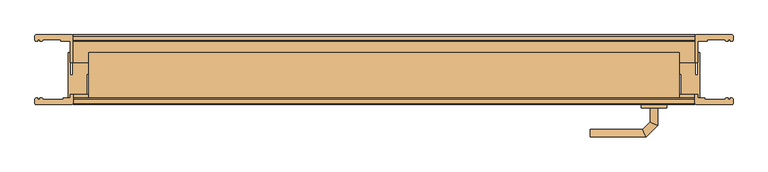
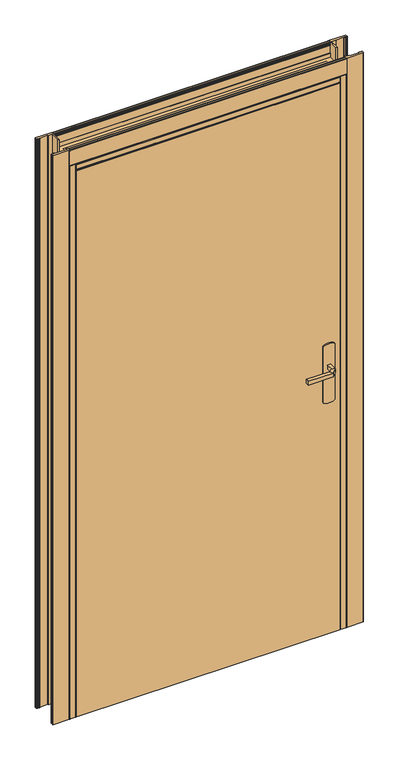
"""IFC4 building model written with IfcOpenShell, lengths in millimetres: door geometry, Doors-Other- SOGAL-SOG040007 : Bloc Porte Standard 930 (Cloison 72-100mm) Chêne Blanc."""

from ifc_helpers import new_model, si_unit, point, frame, frame_2d, origin, origin_with_axes, place, context, project, spatial, polyline, circle_curve, ellipse_curve, trimmed, segment, composite_curve, outline, extrude, source, transform, mapped, element, save
from ifc_brep_helpers import plane_surface, cylinder_surface, advanced_brep


def door_7d5fc318(model_context):
    return source(origin(), model_context, "Body", "SolidModel", [
        extrude(outline(composite_curve([segment(polyline([(-547.7954676, 55.0272352), (-492.070885, 55.0272352)]), True, "CONTINUOUS"), segment(trimmed(circle_curve(frame_2d((-492.070885, 52.8527771)), 2.1744581), [point((-492.070885, 55.0272352))], [point((-489.8964269, 52.8527771))], False, "CARTESIAN"), True, "CONTINUOUS"), segment(polyline([(-489.8964269, 52.8527771), (-489.8964269, 11.0272352), (-493.8765002, 11.0272352), (-493.8765002, 45.0), (-508.967195, 45.0), (-508.967195, 47.0169643), (-537.627571, 47.0169643), (-537.627571, 45.9191686)]), True, "CONTINUOUS"), segment(trimmed(circle_curve(frame_2d((-538.5467397, 45.9191686)), 0.9191686), [point((-537.627571, 45.9191686))], [point((-538.5467397, 45.0))], False, "CARTESIAN"), True, "CONTINUOUS"), segment(polyline([(-538.5467397, 45.0), (-541.8064356, 45.0), (-541.8064356, 47.0169643), (-545.258323, 47.0169643), (-545.258323, 45.0), (-548.1090241, 45.0)]), True, "CONTINUOUS"), segment(trimmed(circle_curve(frame_2d((-548.1090241, 46.5909759)), 1.5909759), [point((-548.1090241, 45.0))], [point((-549.7, 46.5909759))], False, "CARTESIAN"), True, "CONTINUOUS"), segment(polyline([(-549.7, 46.5909759), (-549.7, 53.1227028)]), True, "CONTINUOUS"), segment(trimmed(circle_curve(frame_2d((-547.7954676, 53.1227028)), 1.9045324), [point((-549.7, 53.1227028))], [point((-547.7954676, 55.0272352))], False, "CARTESIAN"), True, "CONTINUOUS")], self_intersect=False)), origin_with_axes(), (0.0, 0.0, 1.0), 2124.7),
        extrude(outline(composite_curve([segment(trimmed(circle_curve(frame_2d((547.7954676, 53.1227028)), 1.9045324), [point((547.7954676, 55.0272352))], [point((549.7, 53.1227028))], False, "CARTESIAN"), True, "CONTINUOUS"), segment(polyline([(549.7, 53.1227028), (549.7, 46.5909759)]), True, "CONTINUOUS"), segment(trimmed(circle_curve(frame_2d((548.1090241, 46.5909759)), 1.5909759), [point((549.7, 46.5909759))], [point((548.1090241, 45.0))], False, "CARTESIAN"), True, "CONTINUOUS"), segment(polyline([(548.1090241, 45.0), (545.258323, 45.0), (545.258323, 47.0169643), (541.8064356, 47.0169643), (541.8064356, 45.0), (538.5467397, 45.0)]), True, "CONTINUOUS"), segment(trimmed(circle_curve(frame_2d((538.5467397, 45.9191686)), 0.9191686), [point((538.5467397, 45.0))], [point((537.627571, 45.9191686))], False, "CARTESIAN"), True, "CONTINUOUS"), segment(polyline([(537.627571, 45.9191686), (537.627571, 47.0169643), (508.967195, 47.0169643), (508.967195, 45.0), (493.8765002, 45.0), (493.8765002, 11.0272352), (489.8964269, 11.0272352), (489.8964269, 52.8527771)]), True, "CONTINUOUS"), segment(trimmed(circle_curve(frame_2d((492.070885, 52.8527771)), 2.1744581), [point((489.8964269, 52.8527771))], [point((492.070885, 55.0272352))], False, "CARTESIAN"), True, "CONTINUOUS"), segment(polyline([(492.070885, 55.0272352), (547.7954676, 55.0272352)]), True, "CONTINUOUS")], self_intersect=False)), origin_with_axes(), (0.0, 0.0, 1.0), 2124.7),
        extrude(outline(composite_curve([segment(trimmed(circle_curve(frame_2d((52.8527771, 2067.070885)), 2.1744581), [point((55.0272352, 2067.070885))], [point((52.8527771, 2064.8964269))], False, "CARTESIAN"), True, "CONTINUOUS"), segment(polyline([(52.8527771, 2064.8964269), (11.0272352, 2064.8964269), (11.0272352, 2068.8765002), (45.0, 2068.8765002), (45.0, 2083.967195), (47.0169643, 2083.967195), (47.0169643, 2112.627571), (45.9191686, 2112.627571)]), True, "CONTINUOUS"), segment(trimmed(circle_curve(frame_2d((45.9191686, 2113.5467397)), 0.9191686), [point((45.9191686, 2112.627571))], [point((45.0, 2113.5467397))], False, "CARTESIAN"), True, "CONTINUOUS"), segment(polyline([(45.0, 2113.5467397), (45.0, 2116.8064356), (47.0169643, 2116.8064356), (47.0169643, 2120.258323), (45.0, 2120.258323), (45.0, 2123.1090241)]), True, "CONTINUOUS"), segment(trimmed(circle_curve(frame_2d((46.5909759, 2123.1090241)), 1.5909759), [point((45.0, 2123.1090241))], [point((46.5909759, 2124.7))], False, "CARTESIAN"), True, "CONTINUOUS"), segment(polyline([(46.5909759, 2124.7), (53.1227028, 2124.7)]), True, "CONTINUOUS"), segment(trimmed(circle_curve(frame_2d((53.1227028, 2122.7954676)), 1.9045324), [point((53.1227028, 2124.7))], [point((55.0272352, 2122.7954676))], False, "CARTESIAN"), True, "CONTINUOUS"), segment(polyline([(55.0272352, 2122.7954676), (55.0272352, 2067.070885)]), True, "CONTINUOUS")], self_intersect=False)), frame((-489.8964269, 0.0, 0.0), z_axis=(1.0, 0.0, 0.0), x_axis=(0.0, 1.0, 0.0)), (0.0, 0.0, 1.0), 979.7928537),
        advanced_brep(
        [(419.0, -6.0272352, 993.0), (431.0, -6.0272352, 993.0), (431.0, -6.0272352, 1007.0), (419.0, -6.0272352, 1007.0), (419.0, 16.4579693, 1007.0), (419.0, 16.4579693, 993.0), (431.0, 21.428532, 1007.0), (431.0, 21.428532, 993.0), (407.5147186, 27.9432506, 1007.0), (407.5147186, 27.9432506, 993.0), (412.4852814, 39.9432506, 1007.0), (412.4852814, 39.9432506, 993.0), (324.9542163, 27.9432506, 993.0), (324.9542163, 27.9432506, 1007.0), (324.9542163, 39.9432506, 1007.0), (324.9542163, 39.9432506, 993.0)],
        [
            (0, 1, circle_curve(frame((425.0, -6.0272352, 1013.0457722), z_axis=(0.0, -1.0, 0.0), x_axis=(1.0, 0.0, 0.0)), 20.9244589)),
            (1, 2),
            (2, 3, circle_curve(frame((425.0, -6.0272352, 986.9542278), z_axis=(0.0, -1.0, 0.0), x_axis=(1.0, 0.0, 0.0)), 20.9244589)),
            (3, 0),
            (3, 4),
            (4, 5),
            (5, 0),
            (2, 6),
            (6, 4, ellipse_curve(frame((425.0, 18.9432506, 986.9542278), z_axis=(0.38268343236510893, -0.9238795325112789, 0.0), x_axis=(-0.9238795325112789, -0.3826834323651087, 0.0)), 22.6484711, 20.9244589)),
            (1, 7),
            (7, 6),
            (5, 7, ellipse_curve(frame((425.0, 18.9432506, 1013.0457722), z_axis=(0.38268343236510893, -0.9238795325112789, 0.0), x_axis=(-0.9238795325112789, -0.3826834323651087, 0.0)), 22.6484711, 20.9244589)),
            (4, 8),
            (8, 9),
            (9, 5),
            (6, 10),
            (10, 8, ellipse_curve(frame((410.0, 33.9432506, 986.9542278), z_axis=(0.9238795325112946, -0.38268343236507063, 0.0), x_axis=(-0.3826834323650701, -0.9238795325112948, 0.0)), 22.6484711, 20.9244589)),
            (7, 11),
            (11, 10),
            (9, 11, ellipse_curve(frame((410.0, 33.9432506, 1013.0457722), z_axis=(0.9238795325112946, -0.38268343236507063, 0.0), x_axis=(-0.3826834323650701, -0.9238795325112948, 0.0)), 22.6484711, 20.9244589)),
            (12, 13),
            (13, 14, circle_curve(frame((324.9542163, 33.9432506, 986.9542278), z_axis=(-1.0, 0.0, 0.0), x_axis=(0.0, 1.0, 0.0)), 20.9244589)),
            (14, 15),
            (15, 12, circle_curve(frame((324.9542163, 33.9432506, 1013.0457722), z_axis=(-1.0, 0.0, 0.0), x_axis=(0.0, 1.0, 0.0)), 20.9244589)),
            (8, 13),
            (12, 9),
            (10, 14),
            (11, 15),
        ],
        [
            plane_surface(frame((434.2195445, -6.0272352, 1000.0), z_axis=(0.0, -1.0, 0.0), x_axis=(0.0, 0.0, 1.0))),
            plane_surface(frame((419.0, -6.0272352, 993.0), z_axis=(-1.0, 0.0, 0.0), x_axis=(0.0, 1.0, 0.0))),
            cylinder_surface(frame((425.0, -6.0272352, 986.9542278), z_axis=(0.0, -1.0, 0.0), x_axis=(1.0, 0.0, 0.0)), 20.9244589),
            plane_surface(frame((431.0, -6.0272352, 1007.0), z_axis=(1.0, 0.0, 0.0), x_axis=(0.0, 1.0, 0.0))),
            cylinder_surface(frame((425.0, -6.0272352, 1013.0457722), z_axis=(0.0, -1.0, 0.0), x_axis=(1.0, 0.0, 0.0)), 20.9244589),
            plane_surface(frame((419.0, 16.4579693, 993.0), z_axis=(-0.7071067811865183, -0.7071067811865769, 0.0), x_axis=(-0.7071067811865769, 0.7071067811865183, 0.0))),
            cylinder_surface(frame((425.0, 18.9432506, 986.9542278), z_axis=(0.7071067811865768, -0.7071067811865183, 0.0), x_axis=(0.7071067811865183, 0.7071067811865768, 0.0)), 20.9244589),
            plane_surface(frame((431.0, 21.428532, 1007.0), z_axis=(0.7071067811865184, 0.7071067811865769, 0.0), x_axis=(-0.7071067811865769, 0.7071067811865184, 0.0))),
            cylinder_surface(frame((425.0, 18.9432506, 1013.0457722), z_axis=(0.7071067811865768, -0.7071067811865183, 0.0), x_axis=(0.7071067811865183, 0.7071067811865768, 0.0)), 20.9244589),
            plane_surface(frame((324.9542163, 33.9432506, 990.7804555), z_axis=(-1.0, 0.0, 0.0), x_axis=(0.0, 1.0, 0.0))),
            plane_surface(frame((407.5147186, 27.9432506, 993.0), z_axis=(0.0, -1.0, 0.0), x_axis=(-1.0, 0.0, 0.0))),
            cylinder_surface(frame((410.0, 33.9432506, 986.9542278), z_axis=(1.0, 0.0, 0.0), x_axis=(0.0, 1.0, 0.0)), 20.9244589),
            plane_surface(frame((412.4852814, 39.9432506, 1007.0), z_axis=(0.0, 1.0, 0.0), x_axis=(-1.0, 0.0, 0.0))),
            cylinder_surface(frame((410.0, 33.9432506, 1013.0457722), z_axis=(1.0, 0.0, 0.0), x_axis=(0.0, 1.0, 0.0)), 20.9244589),
        ],
        [
            (0, [[1, 2, 3, 4]]),
            (1, [[5, 6, 7, -4]]),
            (2, [[8, 9, -5, -3]]),
            (3, [[10, 11, -8, -2]]),
            (4, [[-7, 12, -10, -1]]),
            (5, [[13, 14, 15, -6]]),
            (6, [[16, 17, -13, -9]]),
            (7, [[18, 19, -16, -11]]),
            (8, [[-15, 20, -18, -12]]),
            (9, [[21, 22, 23, 24]]),
            (10, [[25, -21, 26, -14]]),
            (11, [[27, -22, -25, -17]]),
            (12, [[28, -23, -27, -19]]),
            (13, [[-26, -24, -28, -20]]),
        ],
    ),
        advanced_brep(
        [(431.0, -60.0272352, 1007.0), (431.0, -60.0272352, 993.0), (419.0, -60.0272352, 993.0), (419.0, -60.0272352, 1007.0), (419.0, -82.7076232, 1007.0), (431.0, -87.6781859, 1007.0), (419.0, -82.7076232, 993.0), (431.0, -87.6781859, 993.0), (407.6522273, -94.0553959, 1007.0), (412.62279, -106.0553959, 1007.0), (407.6522273, -94.0553959, 993.0), (412.62279, -106.0553959, 993.0), (324.9813594, -106.0553959, 1007.0), (324.9813594, -94.0553959, 1007.0), (324.9813594, -94.0553959, 993.0), (324.9813594, -106.0553959, 993.0)],
        [
            (0, 1),
            (1, 2, circle_curve(frame((425.0, -60.0272352, 1013.0457722), z_axis=(0.0, 1.0, 0.0), x_axis=(-1.0, 0.0, 0.0)), 20.9244589)),
            (2, 3),
            (3, 0, circle_curve(frame((425.0, -60.0272352, 986.9542278), z_axis=(0.0, 1.0, 0.0), x_axis=(-1.0, 0.0, 0.0)), 20.9244589)),
            (3, 4),
            (4, 5, ellipse_curve(frame((425.0, -85.1929046, 986.9542278), z_axis=(0.3826834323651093, 0.9238795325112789, 0.0), x_axis=(-0.9238795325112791, 0.38268343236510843, 0.0)), 22.6484711, 20.9244589)),
            (5, 0),
            (2, 6),
            (6, 4),
            (1, 7),
            (7, 6, ellipse_curve(frame((425.0, -85.1929046, 1013.0457722), z_axis=(0.3826834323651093, 0.9238795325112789, 0.0), x_axis=(-0.9238795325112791, 0.38268343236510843, 0.0)), 22.6484711, 20.9244589)),
            (5, 7),
            (4, 8),
            (8, 9, ellipse_curve(frame((410.1375086, -100.0553959, 986.9542278), z_axis=(0.9238795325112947, 0.38268343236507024, 0.0), x_axis=(-0.3826834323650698, 0.9238795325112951, 0.0)), 22.6484711, 20.9244589)),
            (9, 5),
            (6, 10),
            (10, 8),
            (7, 11),
            (11, 10, ellipse_curve(frame((410.1375086, -100.0553959, 1013.0457722), z_axis=(0.9238795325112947, 0.38268343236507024, 0.0), x_axis=(-0.3826834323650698, 0.9238795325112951, 0.0)), 22.6484711, 20.9244589)),
            (9, 11),
            (12, 13, circle_curve(frame((324.9813594, -100.0553959, 986.9542278), z_axis=(-1.0, 0.0, 0.0), x_axis=(0.0, 1.0, 0.0)), 20.9244589)),
            (13, 14),
            (14, 15, circle_curve(frame((324.9813594, -100.0553959, 1013.0457722), z_axis=(-1.0, 0.0, 0.0), x_axis=(0.0, 1.0, 0.0)), 20.9244589)),
            (15, 12),
            (8, 13),
            (12, 9),
            (10, 14),
            (11, 15),
        ],
        [
            plane_surface(frame((434.2195445, -60.0272352, 1000.0), z_axis=(0.0, 1.0, 0.0), x_axis=(0.0, 0.0, -1.0))),
            cylinder_surface(frame((425.0, -60.0272352, 986.9542278), z_axis=(0.0, 1.0, 0.0), x_axis=(-1.0, 0.0, 0.0)), 20.9244589),
            plane_surface(frame((419.0, -60.0272352, 1007.0), z_axis=(-1.0, 0.0, 0.0), x_axis=(0.0, -1.0, 0.0))),
            cylinder_surface(frame((425.0, -60.0272352, 1013.0457722), z_axis=(0.0, 1.0, 0.0), x_axis=(-1.0, 0.0, 0.0)), 20.9244589),
            plane_surface(frame((431.0, -60.0272352, 993.0), z_axis=(1.0, 0.0, 0.0), x_axis=(0.0, -1.0, 0.0))),
            cylinder_surface(frame((425.0, -85.1929046, 986.9542278), z_axis=(0.7071067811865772, 0.7071067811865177, 0.0), x_axis=(-0.7071067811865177, 0.7071067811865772, 0.0)), 20.9244589),
            plane_surface(frame((419.0, -82.7076232, 1007.0), z_axis=(-0.7071067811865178, 0.7071067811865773, 0.0), x_axis=(-0.7071067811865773, -0.7071067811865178, 0.0))),
            cylinder_surface(frame((425.0, -85.1929046, 1013.0457722), z_axis=(0.7071067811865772, 0.7071067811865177, 0.0), x_axis=(-0.7071067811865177, 0.7071067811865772, 0.0)), 20.9244589),
            plane_surface(frame((431.0, -87.6781859, 993.0), z_axis=(0.7071067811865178, -0.7071067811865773, 0.0), x_axis=(-0.7071067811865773, -0.7071067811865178, 0.0))),
            plane_surface(frame((324.9813594, -100.0553959, 990.7804555), z_axis=(-1.0, 0.0, 0.0), x_axis=(0.0, 1.0, 0.0))),
            cylinder_surface(frame((410.1375086, -100.0553959, 986.9542278), z_axis=(1.0, 0.0, 0.0), x_axis=(0.0, 1.0, 0.0)), 20.9244589),
            plane_surface(frame((407.6522273, -94.0553959, 1007.0), z_axis=(0.0, 1.0, 0.0), x_axis=(-1.0, 0.0, 0.0))),
            cylinder_surface(frame((410.1375086, -100.0553959, 1013.0457722), z_axis=(1.0, 0.0, 0.0), x_axis=(0.0, 1.0, 0.0)), 20.9244589),
            plane_surface(frame((412.62279, -106.0553959, 993.0), z_axis=(0.0, -1.0, 0.0), x_axis=(-1.0, 0.0, 0.0))),
        ],
        [
            (0, [[1, 2, 3, 4]]),
            (1, [[5, 6, 7, -4]]),
            (2, [[8, 9, -5, -3]]),
            (3, [[10, 11, -8, -2]]),
            (4, [[-7, 12, -10, -1]]),
            (5, [[13, 14, 15, -6]]),
            (6, [[16, 17, -13, -9]]),
            (7, [[18, 19, -16, -11]]),
            (8, [[-15, 20, -18, -12]]),
            (9, [[21, 22, 23, 24]]),
            (10, [[25, -21, 26, -14]]),
            (11, [[27, -22, -25, -17]]),
            (12, [[28, -23, -27, -19]]),
            (13, [[-26, -24, -28, -20]]),
        ],
    ),
        extrude(outline(composite_curve([segment(polyline([(1080.0, 405.0), (870.0, 405.0)]), True, "CONTINUOUS"), segment(trimmed(circle_curve(frame_2d((904.6410162, 425.0)), 40.0), [point((870.0, 405.0))], [point((870.0, 445.0))], False, "CARTESIAN"), True, "CONTINUOUS"), segment(polyline([(870.0, 445.0), (1080.0, 445.0)]), True, "CONTINUOUS"), segment(trimmed(circle_curve(frame_2d((1045.3589838, 425.0)), 40.0), [point((1080.0, 445.0))], [point((1080.0, 405.0))], False, "CARTESIAN"), True, "CONTINUOUS")], self_intersect=False)), frame((0.0, -11.0272352, 0.0), z_axis=(0.0, 1.0, 0.0), x_axis=(0.0, 0.0, 1.0)), (0.0, 0.0, 1.0), 5.0),
        extrude(outline(composite_curve([segment(polyline([(870.0, 445.0), (1080.0, 445.0)]), True, "CONTINUOUS"), segment(trimmed(circle_curve(frame_2d((1045.3589838, 425.0)), 40.0), [point((1080.0, 445.0))], [point((1080.0, 405.0))], False, "CARTESIAN"), True, "CONTINUOUS"), segment(polyline([(1080.0, 405.0), (870.0, 405.0)]), True, "CONTINUOUS"), segment(trimmed(circle_curve(frame_2d((904.6410162, 425.0)), 40.0), [point((870.0, 405.0))], [point((870.0, 445.0))], False, "CARTESIAN"), True, "CONTINUOUS")], self_intersect=False)), frame((0.0, -60.0272352, 0.0), z_axis=(0.0, 1.0, 0.0), x_axis=(0.0, 0.0, 1.0)), (0.0, 0.0, 1.0), 5.0),
        extrude(outline(polyline([(465.0, -11.0272352), (465.0, -55.0272352), (-465.0, -55.0272352), (-465.0, -11.0272352), (465.0, -11.0272352)])), origin_with_axes(), (0.0, 0.0, 1.0), 2040.0),
        extrude(outline(composite_curve([segment(polyline([(-497.2920209, -45.0), (-497.2920209, 27.0), (-493.9292318, 27.0), (-493.9292318, -8.7316076), (-489.9292318, -8.7316076), (-489.9292318, 23.8537477)]), True, "CONTINUOUS"), segment(trimmed(circle_curve(frame_2d((-486.7829795, 23.8537477)), 3.1462523), [point((-489.9292318, 23.8537477))], [point((-486.7829795, 27.0))], False, "CARTESIAN"), True, "CONTINUOUS"), segment(polyline([(-486.7829795, 27.0), (-459.803951, 27.0)]), True, "CONTINUOUS"), segment(trimmed(circle_curve(frame_2d((-459.803951, 24.3268599)), 2.6731401), [point((-459.803951, 27.0))], [point((-457.2920209, 25.2411276))], False, "CARTESIAN"), True, "CONTINUOUS"), segment(polyline([(-457.2920209, 25.2411276), (-457.2920209, -5.4097868)]), True, "CONTINUOUS"), segment(trimmed(circle_curve(frame_2d((-459.6600382, -3.3559258)), 3.1346213), [point((-457.2920209, -5.4097868))], [point((-459.065351, -6.4336194))], False, "CARTESIAN"), True, "CONTINUOUS"), segment(polyline([(-459.065351, -6.4336194), (-461.4338818, -6.4336194), (-461.4338818, -0.3022774), (-464.3775983, -0.3022774), (-464.3775983, -6.5953908), (-467.7147916, -6.5953908), (-467.7147916, -53.1705744)]), True, "CONTINUOUS"), segment(trimmed(circle_curve(frame_2d((-469.5714525, -53.1705744)), 1.8566608), [point((-467.7147916, -53.1705744))], [point((-469.5714525, -55.0272352))], False, "CARTESIAN"), True, "CONTINUOUS"), segment(polyline([(-469.5714525, -55.0272352), (-487.6060989, -55.0272352)]), True, "CONTINUOUS"), segment(trimmed(circle_curve(frame_2d((-487.6060989, -52.9005292)), 2.126706), [point((-487.6060989, -55.0272352))], [point((-489.732805, -52.9005292))], False, "CARTESIAN"), True, "CONTINUOUS"), segment(polyline([(-489.732805, -52.9005292), (-489.732805, -38.3193447), (-494.0032268, -38.3193447), (-494.0032268, -45.0), (-497.2920209, -45.0)]), True, "CONTINUOUS")], self_intersect=False)), origin_with_axes(), (0.0, 0.0, 1.0), 2064.732805),
        extrude(outline(composite_curve([segment(polyline([(497.2920209, -45.0), (494.0032268, -45.0), (494.0032268, -38.3193447), (489.732805, -38.3193447), (489.732805, -52.9005292)]), True, "CONTINUOUS"), segment(trimmed(circle_curve(frame_2d((487.6060989, -52.9005292)), 2.126706), [point((489.732805, -52.9005292))], [point((487.6060989, -55.0272352))], False, "CARTESIAN"), True, "CONTINUOUS"), segment(polyline([(487.6060989, -55.0272352), (469.5714525, -55.0272352)]), True, "CONTINUOUS"), segment(trimmed(circle_curve(frame_2d((469.5714525, -53.1705744)), 1.8566608), [point((469.5714525, -55.0272352))], [point((467.7147916, -53.1705744))], False, "CARTESIAN"), True, "CONTINUOUS"), segment(polyline([(467.7147916, -53.1705744), (467.7147916, -6.5953908), (464.3775983, -6.5953908), (464.3775983, -0.3022774), (461.4338818, -0.3022774), (461.4338818, -6.4336194), (459.065351, -6.4336194)]), True, "CONTINUOUS"), segment(trimmed(circle_curve(frame_2d((459.6600382, -3.3559258)), 3.1346213), [point((459.065351, -6.4336194))], [point((457.2920209, -5.4097868))], False, "CARTESIAN"), True, "CONTINUOUS"), segment(polyline([(457.2920209, -5.4097868), (457.2920209, 25.2411276)]), True, "CONTINUOUS"), segment(trimmed(circle_curve(frame_2d((459.803951, 24.3268599)), 2.6731401), [point((457.2920209, 25.2411276))], [point((459.803951, 27.0))], False, "CARTESIAN"), True, "CONTINUOUS"), segment(polyline([(459.803951, 27.0), (486.7829795, 27.0)]), True, "CONTINUOUS"), segment(trimmed(circle_curve(frame_2d((486.7829795, 23.8537477)), 3.1462523), [point((486.7829795, 27.0))], [point((489.9292318, 23.8537477))], False, "CARTESIAN"), True, "CONTINUOUS"), segment(polyline([(489.9292318, 23.8537477), (489.9292318, -8.7316076), (493.9292318, -8.7316076), (493.9292318, 27.0), (497.2920209, 27.0), (497.2920209, -45.0)]), True, "CONTINUOUS")], self_intersect=False)), origin_with_axes(), (0.0, 0.0, 1.0), 2064.732805),
        extrude(outline(composite_curve([segment(polyline([(-489.732805, -39.0272352), (-489.732805, -52.8527771)]), True, "CONTINUOUS"), segment(trimmed(circle_curve(frame_2d((-491.9072631, -52.8527771)), 2.1744581), [point((-489.732805, -52.8527771))], [point((-491.9072631, -55.0272352))], False, "CARTESIAN"), True, "CONTINUOUS"), segment(polyline([(-491.9072631, -55.0272352), (-547.8282725, -55.0272352)]), True, "CONTINUOUS"), segment(trimmed(circle_curve(frame_2d((-547.8282725, -53.1227028)), 1.9045324), [point((-547.8282725, -55.0272352))], [point((-549.732805, -53.1227028))], False, "CARTESIAN"), True, "CONTINUOUS"), segment(polyline([(-549.732805, -53.1227028), (-549.732805, -46.5909759)]), True, "CONTINUOUS"), segment(trimmed(circle_curve(frame_2d((-548.1418291, -46.5909759)), 1.5909759), [point((-549.732805, -46.5909759))], [point((-548.1418291, -45.0))], False, "CARTESIAN"), True, "CONTINUOUS"), segment(polyline([(-548.1418291, -45.0), (-545.2911279, -45.0), (-545.2911279, -47.0169643), (-541.8392405, -47.0169643), (-541.8392405, -45.0), (-538.5795446, -45.0)]), True, "CONTINUOUS"), segment(trimmed(circle_curve(frame_2d((-538.5795446, -45.9191686)), 0.9191686), [point((-538.5795446, -45.0))], [point((-537.660376, -45.9191686))], False, "CARTESIAN"), True, "CONTINUOUS"), segment(polyline([(-537.660376, -45.9191686), (-537.660376, -47.0169643), (-505.0, -47.0169643), (-505.0, -45.0), (-494.0032268, -45.0), (-494.0032268, -39.0272352), (-489.732805, -39.0272352)]), True, "CONTINUOUS")], self_intersect=False)), origin_with_axes(), (0.0, 0.0, 1.0), 2124.732805),
        extrude(outline(composite_curve([segment(polyline([(489.732805, -39.0272352), (494.0032268, -39.0272352), (494.0032268, -45.0), (505.0, -45.0), (505.0, -47.0169643), (537.660376, -47.0169643), (537.660376, -45.9191686)]), True, "CONTINUOUS"), segment(trimmed(circle_curve(frame_2d((538.5795446, -45.9191686)), 0.9191686), [point((537.660376, -45.9191686))], [point((538.5795446, -45.0))], False, "CARTESIAN"), True, "CONTINUOUS"), segment(polyline([(538.5795446, -45.0), (541.8392405, -45.0), (541.8392405, -47.0169643), (545.2911279, -47.0169643), (545.2911279, -45.0), (548.1418291, -45.0)]), True, "CONTINUOUS"), segment(trimmed(circle_curve(frame_2d((548.1418291, -46.5909759)), 1.5909759), [point((548.1418291, -45.0))], [point((549.732805, -46.5909759))], False, "CARTESIAN"), True, "CONTINUOUS"), segment(polyline([(549.732805, -46.5909759), (549.732805, -53.1227028)]), True, "CONTINUOUS"), segment(trimmed(circle_curve(frame_2d((547.8282725, -53.1227028)), 1.9045324), [point((549.732805, -53.1227028))], [point((547.8282725, -55.0272352))], False, "CARTESIAN"), True, "CONTINUOUS"), segment(polyline([(547.8282725, -55.0272352), (491.9072631, -55.0272352)]), True, "CONTINUOUS"), segment(trimmed(circle_curve(frame_2d((491.9072631, -52.8527771)), 2.1744581), [point((491.9072631, -55.0272352))], [point((489.732805, -52.8527771))], False, "CARTESIAN"), True, "CONTINUOUS"), segment(polyline([(489.732805, -52.8527771), (489.732805, -39.0272352)]), True, "CONTINUOUS")], self_intersect=False)), origin_with_axes(), (0.0, 0.0, 1.0), 2124.732805),
        extrude(outline(composite_curve([segment(polyline([(-45.0, 2072.2920209), (27.0, 2072.2920209), (27.0, 2068.9292318), (-8.7316076, 2068.9292318), (-8.7316076, 2064.9292318), (23.8537477, 2064.9292318)]), True, "CONTINUOUS"), segment(trimmed(circle_curve(frame_2d((23.8537477, 2061.7829795)), 3.1462523), [point((23.8537477, 2064.9292318))], [point((27.0, 2061.7829795))], False, "CARTESIAN"), True, "CONTINUOUS"), segment(polyline([(27.0, 2061.7829795), (27.0, 2034.803951)]), True, "CONTINUOUS"), segment(trimmed(circle_curve(frame_2d((24.3268599, 2034.803951)), 2.6731401), [point((27.0, 2034.803951))], [point((25.2411276, 2032.2920209))], False, "CARTESIAN"), True, "CONTINUOUS"), segment(polyline([(25.2411276, 2032.2920209), (-5.4097868, 2032.2920209)]), True, "CONTINUOUS"), segment(trimmed(circle_curve(frame_2d((-3.3559258, 2034.6600382)), 3.1346213), [point((-5.4097868, 2032.2920209))], [point((-6.4336194, 2034.065351))], False, "CARTESIAN"), True, "CONTINUOUS"), segment(polyline([(-6.4336194, 2034.065351), (-6.4336194, 2036.4338818), (-0.3022774, 2036.4338818), (-0.3022774, 2039.3775983), (-6.5953908, 2039.3775983), (-6.5953908, 2042.7147916), (-53.1705744, 2042.7147916)]), True, "CONTINUOUS"), segment(trimmed(circle_curve(frame_2d((-53.1705744, 2044.5714525)), 1.8566608), [point((-53.1705744, 2042.7147916))], [point((-55.0272352, 2044.5714525))], False, "CARTESIAN"), True, "CONTINUOUS"), segment(polyline([(-55.0272352, 2044.5714525), (-55.0272352, 2062.6060989)]), True, "CONTINUOUS"), segment(trimmed(circle_curve(frame_2d((-52.9005292, 2062.6060989)), 2.126706), [point((-55.0272352, 2062.6060989))], [point((-52.9005292, 2064.732805))], False, "CARTESIAN"), True, "CONTINUOUS"), segment(polyline([(-52.9005292, 2064.732805), (-38.3193447, 2064.732805), (-38.3193447, 2069.0032268), (-45.0, 2069.0032268), (-45.0, 2072.2920209)]), True, "CONTINUOUS")], self_intersect=False)), frame((-465.0, 0.0, 0.0), z_axis=(1.0, 0.0, 0.0), x_axis=(0.0, 1.0, 0.0)), (0.0, 0.0, 1.0), 930.0),
        extrude(outline(composite_curve([segment(polyline([(-45.0, 2069.0032268), (-39.0272352, 2069.0032268), (-39.0272352, 2064.732805), (-52.8527771, 2064.732805)]), True, "CONTINUOUS"), segment(trimmed(circle_curve(frame_2d((-52.8527771, 2066.9072631)), 2.1744581), [point((-52.8527771, 2064.732805))], [point((-55.0272352, 2066.9072631))], False, "CARTESIAN"), True, "CONTINUOUS"), segment(polyline([(-55.0272352, 2066.9072631), (-55.0272352, 2122.8282725)]), True, "CONTINUOUS"), segment(trimmed(circle_curve(frame_2d((-53.1227028, 2122.8282725)), 1.9045324), [point((-55.0272352, 2122.8282725))], [point((-53.1227028, 2124.732805))], False, "CARTESIAN"), True, "CONTINUOUS"), segment(polyline([(-53.1227028, 2124.732805), (-46.5909759, 2124.732805)]), True, "CONTINUOUS"), segment(trimmed(circle_curve(frame_2d((-46.5909759, 2123.1418291)), 1.5909759), [point((-46.5909759, 2124.732805))], [point((-45.0, 2123.1418291))], False, "CARTESIAN"), True, "CONTINUOUS"), segment(polyline([(-45.0, 2123.1418291), (-45.0, 2120.2911279), (-47.0169643, 2120.2911279), (-47.0169643, 2116.8392405), (-45.0, 2116.8392405), (-45.0, 2113.5795446)]), True, "CONTINUOUS"), segment(trimmed(circle_curve(frame_2d((-45.9191686, 2113.5795446)), 0.9191686), [point((-45.0, 2113.5795446))], [point((-45.9191686, 2112.660376))], False, "CARTESIAN"), True, "CONTINUOUS"), segment(polyline([(-45.9191686, 2112.660376), (-47.0169643, 2112.660376), (-47.0169643, 2080.0), (-45.0, 2080.0), (-45.0, 2069.0032268)]), True, "CONTINUOUS")], self_intersect=False)), frame((-489.732805, 0.0, 0.0), z_axis=(1.0, 0.0, 0.0), x_axis=(0.0, 1.0, 0.0)), (0.0, 0.0, 1.0), 979.4656099),
    ])


if __name__ == "__main__":
    model = new_model("IFC4")
    model_context = context("Model", 3, world=origin())
    ifc_project = project(units=[si_unit("LENGTHUNIT", "METRE", prefix="MILLI")], contexts=[model_context])
    site = spatial("IfcSite", under=ifc_project)
    building = spatial("IfcBuilding", under=site)
    placement = place(None, origin())
    door_shape = door_7d5fc318(model_context)
    element("IfcDoor", 1, ObjectType="Doors-Other- SOGAL-SOG040007 : Bloc Porte Standard 930 (Cloison 72-100mm) Chêne Blanc", at=placement, inside=building, context=model_context, shape_type="MappedRepresentation", body=[
        mapped(door_shape, transform((0.0, 0.0, 0.0), x_axis=(1.0, 0.0, 0.0), y_axis=(0.0, 1.0, 0.0), z_axis=(0.0, 0.0, 1.0))),
    ])
    save(model, "model.ifc")
